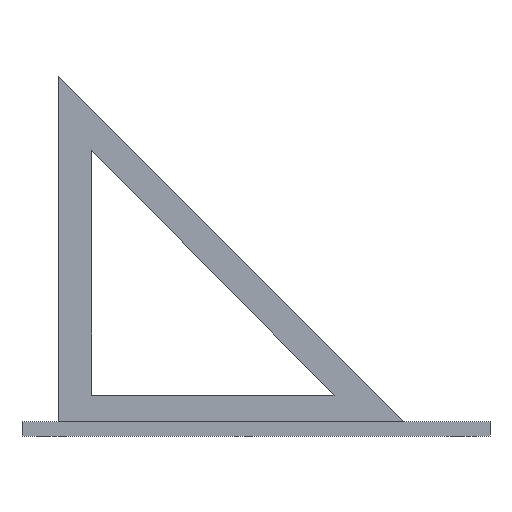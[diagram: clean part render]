
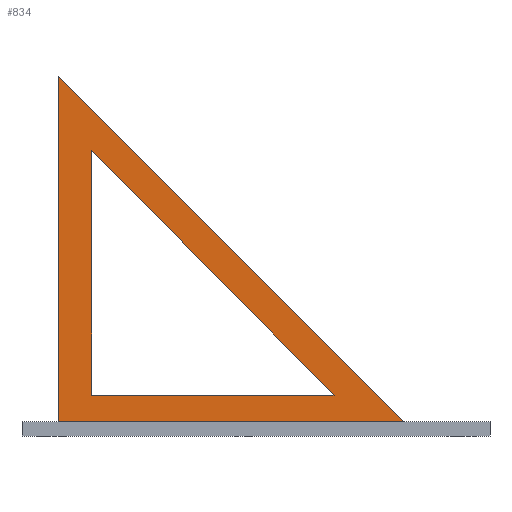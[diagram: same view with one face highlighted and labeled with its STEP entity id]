
A CAD part, left-side view. The second image highlights one B-rep face of the part: STEP entity #834.
In plain terms, the highlighted planar face has unit normal (-1, 0, 0).
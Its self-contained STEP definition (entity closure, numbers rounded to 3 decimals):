
#126 = PLANE('',#127);
#127 = AXIS2_PLACEMENT_3D('',#128,#129,#130);
#128 = CARTESIAN_POINT('',(0.,0.,6.));
#129 = DIRECTION('',(0.,0.,1.));
#130 = DIRECTION('',(1.,0.,0.));
#266 = VERTEX_POINT('',#267);
#267 = CARTESIAN_POINT('',(13.,36.,6.));
#283 = PLANE('',#284);
#284 = AXIS2_PLACEMENT_3D('',#285,#286,#287);
#285 = CARTESIAN_POINT('',(13.,180.,150.));
#286 = DIRECTION('',(0.,0.707,-0.707));
#287 = DIRECTION('',(0.,-0.707,-0.707));
#295 = EDGE_CURVE('',#266,#296,#298,.T.);
#296 = VERTEX_POINT('',#297);
#297 = CARTESIAN_POINT('',(13.,180.,6.));
#298 = SURFACE_CURVE('',#299,(#303,#309),.PCURVE_S1.);
#299 = LINE('',#300,#301);
#300 = CARTESIAN_POINT('',(13.,64.501,6.));
#301 = VECTOR('',#302,1.);
#302 = DIRECTION('',(0.,1.,0.));
#303 = PCURVE('',#126,#304);
#304 = DEFINITIONAL_REPRESENTATION('',(#305),#308);
#305 = B_SPLINE_CURVE_WITH_KNOTS('',1,(#306,#307),.UNSPECIFIED.,.F.,.F.,
  (2,2),(-28.501,115.499),.PIECEWISE_BEZIER_KNOTS.);
#306 = CARTESIAN_POINT('',(13.,36.));
#307 = CARTESIAN_POINT('',(13.,180.));
#308 = ( GEOMETRIC_REPRESENTATION_CONTEXT(2) 
PARAMETRIC_REPRESENTATION_CONTEXT() REPRESENTATION_CONTEXT('2D SPACE',''
  ) );
#309 = PCURVE('',#310,#315);
#310 = PLANE('',#311);
#311 = AXIS2_PLACEMENT_3D('',#312,#313,#314);
#312 = CARTESIAN_POINT('',(13.,129.003,56.412));
#313 = DIRECTION('',(1.,0.,0.));
#314 = DIRECTION('',(-0.,0.,1.));
#315 = DEFINITIONAL_REPRESENTATION('',(#316),#319);
#316 = B_SPLINE_CURVE_WITH_KNOTS('',1,(#317,#318),.UNSPECIFIED.,.F.,.F.,
  (2,2),(-28.501,115.499),.PIECEWISE_BEZIER_KNOTS.);
#317 = CARTESIAN_POINT('',(-50.412,93.003));
#318 = CARTESIAN_POINT('',(-50.412,-50.997));
#319 = ( GEOMETRIC_REPRESENTATION_CONTEXT(2) 
PARAMETRIC_REPRESENTATION_CONTEXT() REPRESENTATION_CONTEXT('2D SPACE',''
  ) );
#336 = PLANE('',#337);
#337 = AXIS2_PLACEMENT_3D('',#338,#339,#340);
#338 = CARTESIAN_POINT('',(13.,180.,5.));
#339 = DIRECTION('',(0.,-1.,0.));
#340 = DIRECTION('',(0.,0.,1.));
#706 = VERTEX_POINT('',#707);
#707 = CARTESIAN_POINT('',(13.,180.,150.));
#752 = EDGE_CURVE('',#706,#266,#753,.T.);
#753 = SURFACE_CURVE('',#754,(#758,#765),.PCURVE_S1.);
#754 = LINE('',#755,#756);
#755 = CARTESIAN_POINT('',(13.,180.,150.));
#756 = VECTOR('',#757,1.);
#757 = DIRECTION('',(0.,-0.707,-0.707));
#758 = PCURVE('',#283,#759);
#759 = DEFINITIONAL_REPRESENTATION('',(#760),#764);
#760 = LINE('',#761,#762);
#761 = CARTESIAN_POINT('',(0.,0.));
#762 = VECTOR('',#763,1.);
#763 = DIRECTION('',(1.,0.));
#764 = ( GEOMETRIC_REPRESENTATION_CONTEXT(2) 
PARAMETRIC_REPRESENTATION_CONTEXT() REPRESENTATION_CONTEXT('2D SPACE',''
  ) );
#765 = PCURVE('',#310,#766);
#766 = DEFINITIONAL_REPRESENTATION('',(#767),#771);
#767 = LINE('',#768,#769);
#768 = CARTESIAN_POINT('',(93.588,-50.997));
#769 = VECTOR('',#770,1.);
#770 = DIRECTION('',(-0.707,0.707));
#771 = ( GEOMETRIC_REPRESENTATION_CONTEXT(2) 
PARAMETRIC_REPRESENTATION_CONTEXT() REPRESENTATION_CONTEXT('2D SPACE',''
  ) );
#834 = ADVANCED_FACE('',(#835,#860),#310,.F.);
#835 = FACE_BOUND('',#836,.F.);
#836 = EDGE_LOOP('',(#837,#838,#839));
#837 = ORIENTED_EDGE('',*,*,#752,.T.);
#838 = ORIENTED_EDGE('',*,*,#295,.T.);
#839 = ORIENTED_EDGE('',*,*,#840,.T.);
#840 = EDGE_CURVE('',#296,#706,#841,.T.);
#841 = SURFACE_CURVE('',#842,(#846,#853),.PCURVE_S1.);
#842 = LINE('',#843,#844);
#843 = CARTESIAN_POINT('',(13.,180.,5.));
#844 = VECTOR('',#845,1.);
#845 = DIRECTION('',(0.,0.,1.));
#846 = PCURVE('',#310,#847);
#847 = DEFINITIONAL_REPRESENTATION('',(#848),#852);
#848 = LINE('',#849,#850);
#849 = CARTESIAN_POINT('',(-51.412,-50.997));
#850 = VECTOR('',#851,1.);
#851 = DIRECTION('',(1.,0.));
#852 = ( GEOMETRIC_REPRESENTATION_CONTEXT(2) 
PARAMETRIC_REPRESENTATION_CONTEXT() REPRESENTATION_CONTEXT('2D SPACE',''
  ) );
#853 = PCURVE('',#336,#854);
#854 = DEFINITIONAL_REPRESENTATION('',(#855),#859);
#855 = LINE('',#856,#857);
#856 = CARTESIAN_POINT('',(0.,0.));
#857 = VECTOR('',#858,1.);
#858 = DIRECTION('',(1.,0.));
#859 = ( GEOMETRIC_REPRESENTATION_CONTEXT(2) 
PARAMETRIC_REPRESENTATION_CONTEXT() REPRESENTATION_CONTEXT('2D SPACE',''
  ) );
#860 = FACE_BOUND('',#861,.F.);
#861 = EDGE_LOOP('',(#862,#890,#916));
#862 = ORIENTED_EDGE('',*,*,#863,.T.);
#863 = EDGE_CURVE('',#864,#866,#868,.T.);
#864 = VERTEX_POINT('',#865);
#865 = CARTESIAN_POINT('',(13.,166.,119.));
#866 = VERTEX_POINT('',#867);
#867 = CARTESIAN_POINT('',(13.,166.,17.));
#868 = SURFACE_CURVE('',#869,(#873,#879),.PCURVE_S1.);
#869 = LINE('',#870,#871);
#870 = CARTESIAN_POINT('',(13.,166.,36.706));
#871 = VECTOR('',#872,1.);
#872 = DIRECTION('',(0.,0.,-1.));
#873 = PCURVE('',#310,#874);
#874 = DEFINITIONAL_REPRESENTATION('',(#875),#878);
#875 = B_SPLINE_CURVE_WITH_KNOTS('',1,(#876,#877),.UNSPECIFIED.,.F.,.F.,
  (2,2),(-82.294,19.706),.PIECEWISE_BEZIER_KNOTS.);
#876 = CARTESIAN_POINT('',(62.588,-36.997));
#877 = CARTESIAN_POINT('',(-39.412,-36.997));
#878 = ( GEOMETRIC_REPRESENTATION_CONTEXT(2) 
PARAMETRIC_REPRESENTATION_CONTEXT() REPRESENTATION_CONTEXT('2D SPACE',''
  ) );
#879 = PCURVE('',#880,#885);
#880 = PLANE('',#881);
#881 = AXIS2_PLACEMENT_3D('',#882,#883,#884);
#882 = CARTESIAN_POINT('',(12.,166.,17.));
#883 = DIRECTION('',(0.,-1.,0.));
#884 = DIRECTION('',(0.,0.,1.));
#885 = DEFINITIONAL_REPRESENTATION('',(#886),#889);
#886 = B_SPLINE_CURVE_WITH_KNOTS('',1,(#887,#888),.UNSPECIFIED.,.F.,.F.,
  (2,2),(-82.294,19.706),.PIECEWISE_BEZIER_KNOTS.);
#887 = CARTESIAN_POINT('',(102.,-1.));
#888 = CARTESIAN_POINT('',(0.,-1.));
#889 = ( GEOMETRIC_REPRESENTATION_CONTEXT(2) 
PARAMETRIC_REPRESENTATION_CONTEXT() REPRESENTATION_CONTEXT('2D SPACE',''
  ) );
#890 = ORIENTED_EDGE('',*,*,#891,.T.);
#891 = EDGE_CURVE('',#866,#892,#894,.T.);
#892 = VERTEX_POINT('',#893);
#893 = CARTESIAN_POINT('',(13.,65.,17.));
#894 = SURFACE_CURVE('',#895,(#899,#905),.PCURVE_S1.);
#895 = LINE('',#896,#897);
#896 = CARTESIAN_POINT('',(13.,97.001,17.));
#897 = VECTOR('',#898,1.);
#898 = DIRECTION('',(0.,-1.,0.));
#899 = PCURVE('',#310,#900);
#900 = DEFINITIONAL_REPRESENTATION('',(#901),#904);
#901 = B_SPLINE_CURVE_WITH_KNOTS('',1,(#902,#903),.UNSPECIFIED.,.F.,.F.,
  (2,2),(-68.999,32.001),.PIECEWISE_BEZIER_KNOTS.);
#902 = CARTESIAN_POINT('',(-39.412,-36.997));
#903 = CARTESIAN_POINT('',(-39.412,64.003));
#904 = ( GEOMETRIC_REPRESENTATION_CONTEXT(2) 
PARAMETRIC_REPRESENTATION_CONTEXT() REPRESENTATION_CONTEXT('2D SPACE',''
  ) );
#905 = PCURVE('',#906,#911);
#906 = PLANE('',#907);
#907 = AXIS2_PLACEMENT_3D('',#908,#909,#910);
#908 = CARTESIAN_POINT('',(12.,65.,17.));
#909 = DIRECTION('',(0.,0.,1.));
#910 = DIRECTION('',(0.,1.,0.));
#911 = DEFINITIONAL_REPRESENTATION('',(#912),#915);
#912 = B_SPLINE_CURVE_WITH_KNOTS('',1,(#913,#914),.UNSPECIFIED.,.F.,.F.,
  (2,2),(-68.999,32.001),.PIECEWISE_BEZIER_KNOTS.);
#913 = CARTESIAN_POINT('',(101.,-1.));
#914 = CARTESIAN_POINT('',(0.,-1.));
#915 = ( GEOMETRIC_REPRESENTATION_CONTEXT(2) 
PARAMETRIC_REPRESENTATION_CONTEXT() REPRESENTATION_CONTEXT('2D SPACE',''
  ) );
#916 = ORIENTED_EDGE('',*,*,#917,.T.);
#917 = EDGE_CURVE('',#892,#864,#918,.T.);
#918 = SURFACE_CURVE('',#919,(#923,#929),.PCURVE_S1.);
#919 = LINE('',#920,#921);
#920 = CARTESIAN_POINT('',(13.,141.196,93.95));
#921 = VECTOR('',#922,1.);
#922 = DIRECTION('',(-0.,0.704,0.711));
#923 = PCURVE('',#310,#924);
#924 = DEFINITIONAL_REPRESENTATION('',(#925),#928);
#925 = B_SPLINE_CURVE_WITH_KNOTS('',1,(#926,#927),.UNSPECIFIED.,.F.,.F.,
  (2,2),(-108.292,35.253),.PIECEWISE_BEZIER_KNOTS.);
#926 = CARTESIAN_POINT('',(-39.412,64.003));
#927 = CARTESIAN_POINT('',(62.588,-36.997));
#928 = ( GEOMETRIC_REPRESENTATION_CONTEXT(2) 
PARAMETRIC_REPRESENTATION_CONTEXT() REPRESENTATION_CONTEXT('2D SPACE',''
  ) );
#929 = PCURVE('',#930,#935);
#930 = PLANE('',#931);
#931 = AXIS2_PLACEMENT_3D('',#932,#933,#934);
#932 = CARTESIAN_POINT('',(12.,166.,119.));
#933 = DIRECTION('',(0.,0.711,-0.704));
#934 = DIRECTION('',(0.,-0.704,-0.711));
#935 = DEFINITIONAL_REPRESENTATION('',(#936),#939);
#936 = B_SPLINE_CURVE_WITH_KNOTS('',1,(#937,#938),.UNSPECIFIED.,.F.,.F.,
  (2,2),(-108.292,35.253),.PIECEWISE_BEZIER_KNOTS.);
#937 = CARTESIAN_POINT('',(143.544,-1.));
#938 = CARTESIAN_POINT('',(0.,-1.));
#939 = ( GEOMETRIC_REPRESENTATION_CONTEXT(2) 
PARAMETRIC_REPRESENTATION_CONTEXT() REPRESENTATION_CONTEXT('2D SPACE',''
  ) );
